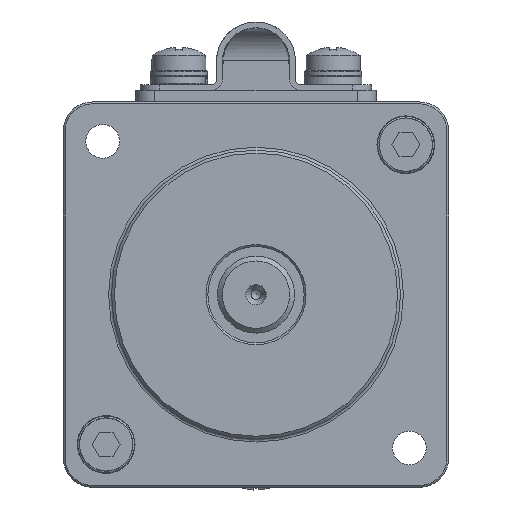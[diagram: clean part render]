
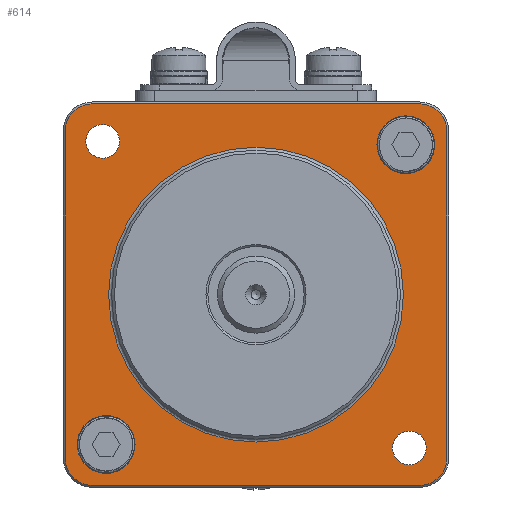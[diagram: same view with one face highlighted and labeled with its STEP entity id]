
A CAD part, front view. The second image highlights one B-rep face of the part: STEP entity #614.
In plain terms, the highlighted planar face has unit normal (0, -1, 0).
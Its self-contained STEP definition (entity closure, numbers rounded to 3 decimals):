
#614=ADVANCED_FACE('',(#1824,#1825,#1826,#1827,#1828,#1829),#1830,.T.);
#1824=FACE_BOUND('',#5199,.T.);
#1825=FACE_BOUND('',#5200,.T.);
#1826=FACE_BOUND('',#5201,.T.);
#1827=FACE_BOUND('',#5202,.T.);
#1828=FACE_BOUND('',#5203,.T.);
#1829=FACE_OUTER_BOUND('',#5204,.T.);
#1830=PLANE('',#5205);
#5199=EDGE_LOOP('',(#9533));
#5200=EDGE_LOOP('',(#9534));
#5201=EDGE_LOOP('',(#9535));
#5202=EDGE_LOOP('',(#9536));
#5203=EDGE_LOOP('',(#9537));
#5204=EDGE_LOOP('',(#9538,#9539,#9540,#9541,#9542,#9543,#9544,#9545));
#5205=AXIS2_PLACEMENT_3D('',#9546,#9547,#9548);
#9533=ORIENTED_EDGE('',*,*,#11280,.T.);
#9534=ORIENTED_EDGE('',*,*,#10090,.T.);
#9535=ORIENTED_EDGE('',*,*,#10034,.T.);
#9536=ORIENTED_EDGE('',*,*,#10071,.T.);
#9537=ORIENTED_EDGE('',*,*,#11281,.T.);
#9538=ORIENTED_EDGE('',*,*,#10081,.T.);
#9539=ORIENTED_EDGE('',*,*,#11282,.T.);
#9540=ORIENTED_EDGE('',*,*,#11283,.T.);
#9541=ORIENTED_EDGE('',*,*,#11284,.T.);
#9542=ORIENTED_EDGE('',*,*,#11285,.T.);
#9543=ORIENTED_EDGE('',*,*,#11286,.T.);
#9544=ORIENTED_EDGE('',*,*,#11287,.T.);
#9545=ORIENTED_EDGE('',*,*,#10061,.T.);
#9546=CARTESIAN_POINT('',(0.,-56.5,30.));
#9547=DIRECTION('',(0.,-1.0,0.));
#9548=DIRECTION('',(0.0,0.,-1.0));
#10034=EDGE_CURVE('',#11466,#11466,#11467,.T.);
#10061=EDGE_CURVE('',#11510,#11513,#11515,.T.);
#10071=EDGE_CURVE('',#11529,#11529,#11530,.T.);
#10081=EDGE_CURVE('',#11513,#11546,#11548,.T.);
#10090=EDGE_CURVE('',#11563,#11563,#11564,.T.);
#11280=EDGE_CURVE('',#13534,#13534,#13535,.T.);
#11281=EDGE_CURVE('',#13536,#13536,#13537,.T.);
#11282=EDGE_CURVE('',#11546,#13538,#13539,.T.);
#11283=EDGE_CURVE('',#13538,#13540,#13541,.T.);
#11284=EDGE_CURVE('',#13540,#13542,#13543,.T.);
#11285=EDGE_CURVE('',#13542,#13544,#13545,.T.);
#11286=EDGE_CURVE('',#13544,#13546,#13547,.T.);
#11287=EDGE_CURVE('',#13546,#11510,#13548,.T.);
#11466=VERTEX_POINT('',#13769);
#11467=CIRCLE('',#13770,1.75);
#11510=VERTEX_POINT('',#13838);
#11513=VERTEX_POINT('',#13842);
#11515=CIRCLE('',#13845,2.8);
#11529=VERTEX_POINT('',#13865);
#11530=CIRCLE('',#13866,3.);
#11546=VERTEX_POINT('',#13886);
#11548=LINE('',#13889,#13890);
#11563=VERTEX_POINT('',#13906);
#11564=CIRCLE('',#13907,1.75);
#13534=VERTEX_POINT('',#18764);
#13535=CIRCLE('',#18765,3.);
#13536=VERTEX_POINT('',#18766);
#13537=CIRCLE('',#18767,15.3);
#13538=VERTEX_POINT('',#18768);
#13539=CIRCLE('',#18769,2.8);
#13540=VERTEX_POINT('',#18770);
#13541=LINE('',#18771,#18772);
#13542=VERTEX_POINT('',#18773);
#13543=CIRCLE('',#18774,2.8);
#13544=VERTEX_POINT('',#18775);
#13545=LINE('',#18776,#18777);
#13546=VERTEX_POINT('',#18778);
#13547=CIRCLE('',#18779,2.8);
#13548=LINE('',#18780,#18781);
#13769=CARTESIAN_POINT('',(15.91,-56.5,-17.66));
#13770=AXIS2_PLACEMENT_3D('',#18973,#18974,#18975);
#13838=CARTESIAN_POINT('',(17.0,-56.5,-19.8));
#13842=CARTESIAN_POINT('',(19.8,-56.5,-17.));
#13845=AXIS2_PLACEMENT_3D('',#19018,#19019,#19020);
#13865=CARTESIAN_POINT('',(15.556,-56.5,18.556));
#13866=AXIS2_PLACEMENT_3D('',#19036,#19037,#19038);
#13886=CARTESIAN_POINT('',(19.8,-56.5,17.));
#13889=CARTESIAN_POINT('',(19.8,-56.5,30.));
#13890=VECTOR('',#19056,1.0);
#13906=CARTESIAN_POINT('',(-15.91,-56.5,17.66));
#13907=AXIS2_PLACEMENT_3D('',#19079,#19080,#19081);
#18764=CARTESIAN_POINT('',(-15.556,-56.5,-18.556));
#18765=AXIS2_PLACEMENT_3D('',#20920,#20921,#20922);
#18766=CARTESIAN_POINT('',(0.,-56.5,15.3));
#18767=AXIS2_PLACEMENT_3D('',#20923,#20924,#20925);
#18768=CARTESIAN_POINT('',(17.0,-56.5,19.8));
#18769=AXIS2_PLACEMENT_3D('',#20926,#20927,#20928);
#18770=CARTESIAN_POINT('',(-17.0,-56.5,19.8));
#18771=CARTESIAN_POINT('',(0.,-56.5,19.8));
#18772=VECTOR('',#20929,1.0);
#18773=CARTESIAN_POINT('',(-19.8,-56.5,17.));
#18774=AXIS2_PLACEMENT_3D('',#20930,#20931,#20932);
#18775=CARTESIAN_POINT('',(-19.8,-56.5,-17.));
#18776=CARTESIAN_POINT('',(-19.8,-56.5,30.));
#18777=VECTOR('',#20933,1.0);
#18778=CARTESIAN_POINT('',(-17.0,-56.5,-19.8));
#18779=AXIS2_PLACEMENT_3D('',#20934,#20935,#20936);
#18780=CARTESIAN_POINT('',(0.,-56.5,-19.8));
#18781=VECTOR('',#20937,1.0);
#18973=CARTESIAN_POINT('',(15.91,-56.5,-15.91));
#18974=DIRECTION('',(0.,1.0,0.));
#18975=DIRECTION('',(0.,0.,-1.0));
#19018=CARTESIAN_POINT('',(17.0,-56.5,-17.));
#19019=DIRECTION('',(0.,-1.0,0.));
#19020=DIRECTION('',(0.,0.,1.0));
#19036=CARTESIAN_POINT('',(15.556,-56.5,15.556));
#19037=DIRECTION('',(0.,1.0,0.));
#19038=DIRECTION('',(0.,0.,1.0));
#19056=DIRECTION('',(0.,0.,1.0));
#19079=CARTESIAN_POINT('',(-15.91,-56.5,15.91));
#19080=DIRECTION('',(0.,1.0,0.));
#19081=DIRECTION('',(0.,0.,1.0));
#20920=CARTESIAN_POINT('',(-15.556,-56.5,-15.556));
#20921=DIRECTION('',(0.,1.0,0.));
#20922=DIRECTION('',(0.,0.,-1.0));
#20923=CARTESIAN_POINT('',(0.,-56.5,0.));
#20924=DIRECTION('',(0.,1.0,0.));
#20925=DIRECTION('',(0.,0.,1.0));
#20926=CARTESIAN_POINT('',(17.0,-56.5,17.));
#20927=DIRECTION('',(0.,-1.0,0.));
#20928=DIRECTION('',(0.,0.,1.0));
#20929=DIRECTION('',(-1.0,0.,0.));
#20930=CARTESIAN_POINT('',(-17.0,-56.5,17.));
#20931=DIRECTION('',(0.,-1.0,0.));
#20932=DIRECTION('',(0.,0.,1.0));
#20933=DIRECTION('',(0.,0.,-1.0));
#20934=CARTESIAN_POINT('',(-17.0,-56.5,-17.));
#20935=DIRECTION('',(0.,-1.0,0.));
#20936=DIRECTION('',(0.,0.,1.0));
#20937=DIRECTION('',(1.0,0.,0.));
